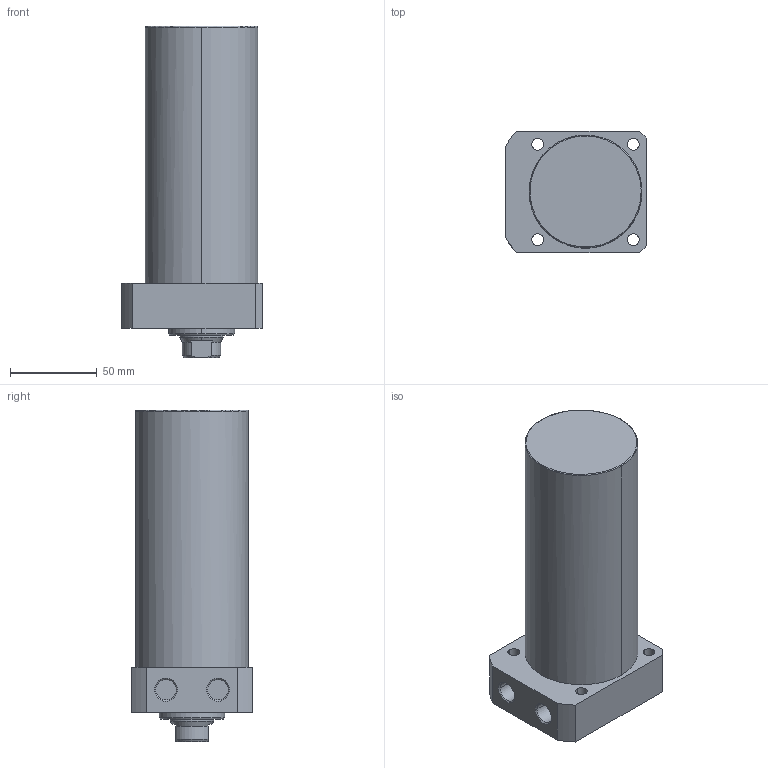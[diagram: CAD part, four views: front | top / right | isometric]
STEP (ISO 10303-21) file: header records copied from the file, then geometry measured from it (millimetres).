
FILE_DESCRIPTION((' '),'2;1');
FILE_NAME( 'TLLR-065CA-115.STEP.stp', '2025-10-24T16:34:54', (' '), ('--- Datakit www.datakit.com---'), ' Datakit CrossCadWare V2024.1 Dec 21 2023', 'Mastercam 2025', ' ');
FILE_SCHEMA(('AUTOMOTIVE_DESIGN { 1 0 10303 214 1 1 1 1 }'));
Length unit declared in the file: millimetre
Products named in the file (1): TLLR-065CA-115
Bounding box: 81 x 70 x 191 mm (x, y, z)
Volume: 635082.4 mm3; surface area: 54651.9 mm2
Topology: 1 solids, 1 shells, 63 faces, 179 edges, 124 vertices
Faces by surface type: cylinder 28, plane 19, cone 14, torus 2
Entity records: 2174 total; most frequent: DIRECTION 402, CARTESIAN_POINT 397, ORIENTED_EDGE 354, EDGE_CURVE 177, AXIS2_PLACEMENT_3D 169, VERTEX_POINT 124, CIRCLE 105, EDGE_LOOP 79
